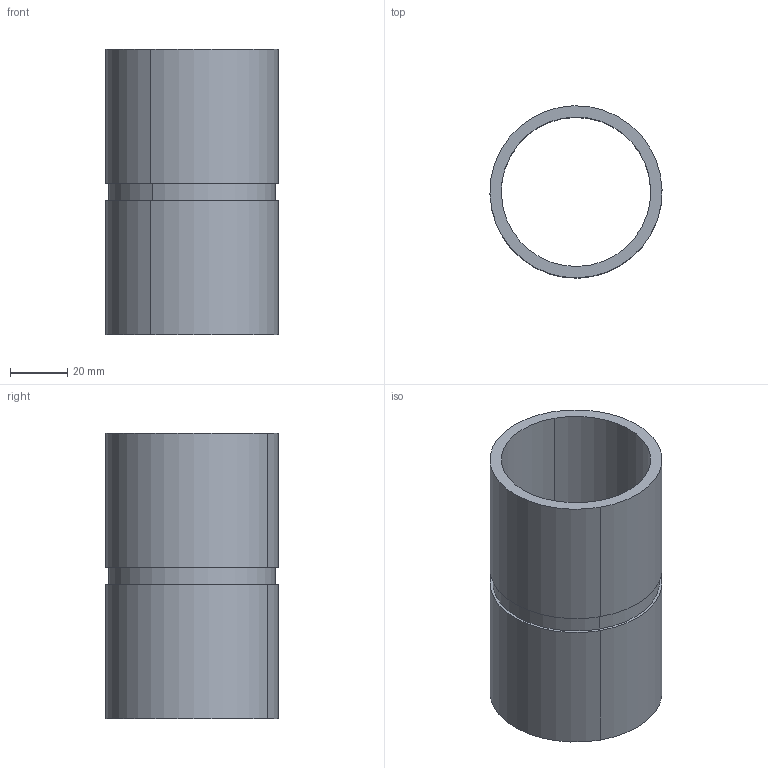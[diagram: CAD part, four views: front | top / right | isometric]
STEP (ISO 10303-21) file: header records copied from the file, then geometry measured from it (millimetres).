
FILE_DESCRIPTION(('CATIA V5 STEP Exchange'),'2;1');
FILE_NAME('C:\Users\Utente\Desktop\3D files 395H FCA\395H 19-232-0320.stp','2020-04-09T13:50:27+00:00',('none'),('none'),'CATIA Version 5 Release 20 GA (IN-10)','CATIA V5 STEP AP203','none');
FILE_SCHEMA(('CONFIG_CONTROL_DESIGN'));
Length unit declared in the file: millimetre
Products named in the file (1): 395H 19-232-0320
Bounding box: 60.31 x 60.31 x 100 mm (x, y, z)
Volume: 69092.2 mm3; surface area: 37154.5 mm2
Topology: 1 solids, 1 shells, 12 faces, 27 edges, 23 vertices
Faces by surface type: cylinder 8, plane 4
Entity records: 375 total; most frequent: CARTESIAN_POINT 61, ORIENTED_EDGE 48, DIRECTION 47, AXIS2_PLACEMENT_3D 27, EDGE_CURVE 24, CIRCLE 16, EDGE_LOOP 16, VERTEX_POINT 16
